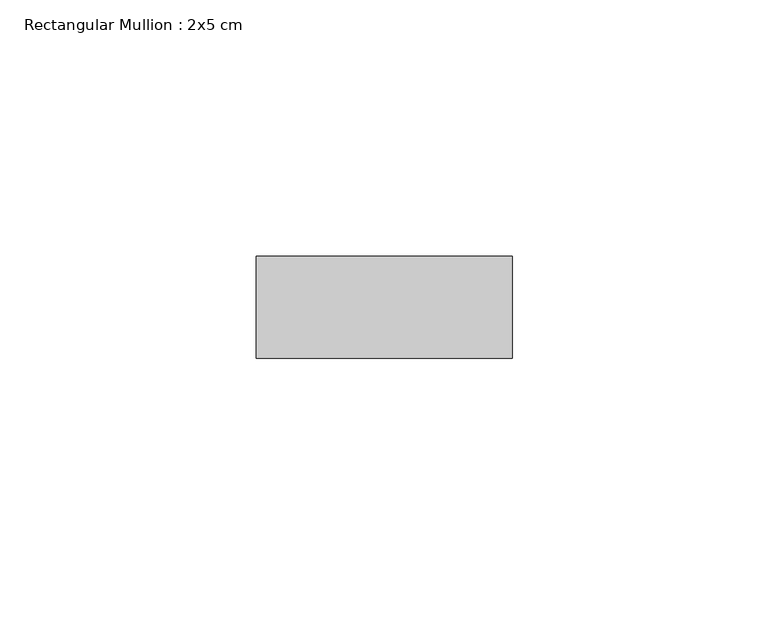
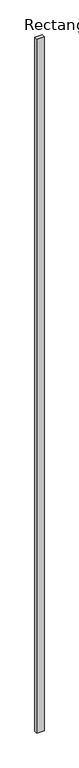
"""IFC4 building model written with IfcOpenShell, lengths in millimetres: member geometry, Rectangular Mullion : 2x5 cm."""

from ifc_helpers import new_model, si_unit, frame, origin, place, context, project, spatial, polyline, outline, extrude, source, transform, mapped, element, save


def rectangular_mullion_2x5_cm_859a8cd1(model_context):
    return source(origin(), model_context, "Body", "SweptSolid", [
        extrude(outline(polyline([(50.0, 20.0), (50.0, 0.0), (0.0, 0.0), (0.0, 20.0), (50.0, 20.0)])), frame((0.0, 0.0, -4966.8636032), z_axis=(0.0, 0.0, 1.0), x_axis=(1.0, 0.0, 0.0)), (0.0, 0.0, 1.0), 4966.8636032),
    ])


if __name__ == "__main__":
    model = new_model("IFC4")
    model_context = context("Model", 3, world=origin())
    ifc_project = project(units=[si_unit("LENGTHUNIT", "METRE", prefix="MILLI")], contexts=[model_context])
    site = spatial("IfcSite", under=ifc_project)
    building = spatial("IfcBuilding", under=site)
    placement = place(None, origin())
    rectangular_mullion_2x5_cm_shape = rectangular_mullion_2x5_cm_859a8cd1(model_context)
    element("IfcMember", 1, ObjectType="Rectangular Mullion : 2x5 cm", at=placement, inside=building, context=model_context, shape_type="MappedRepresentation", body=[
        mapped(rectangular_mullion_2x5_cm_shape, transform((0.0, 0.0, 0.0), x_axis=(1.0, 0.0, 0.0), y_axis=(0.0, 1.0, 0.0), z_axis=(0.0, 0.0, 1.0))),
    ])
    save(model, "model.ifc")
